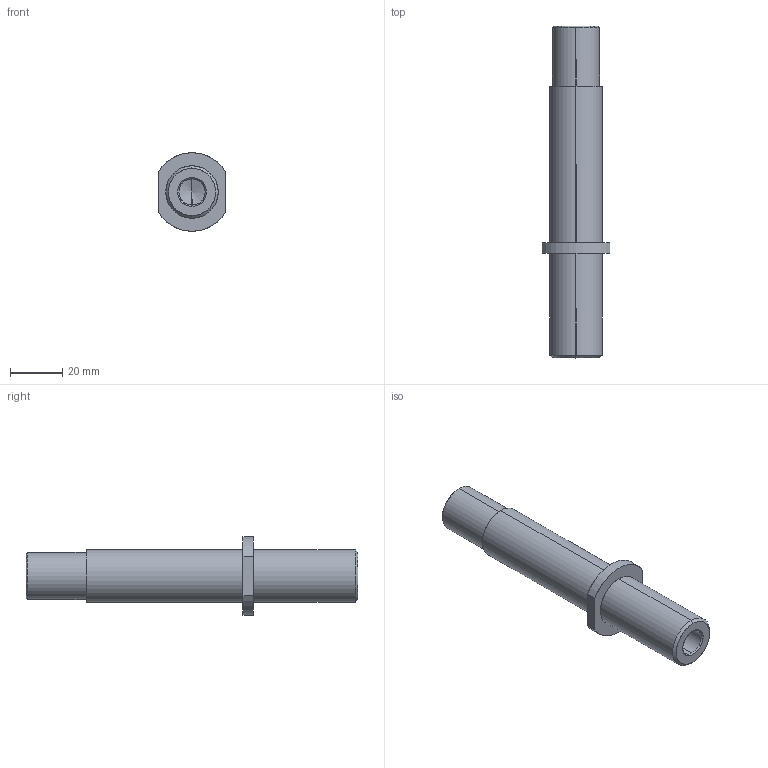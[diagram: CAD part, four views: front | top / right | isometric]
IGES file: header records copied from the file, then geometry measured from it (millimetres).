
Start section: SolidWorks IGES file using analytic representation for surfaces
Global section: file name: C:\Documents and Settings\Pc\Escritorio\Modelos 3D\Capítulo 6 (Fatiga)\PRACTICAS\P-15\p-15.IGS; native system: SolidWorks 2010; preprocessor: SolidWorks 2010; author: Pc; date: 100623.114409; units: millimetre
Bounding box: 26 x 127 x 30 mm (x, y, z)
Surface area: 10295.8 mm2 (no closed solid volume)
Topology: 0 solids, 0 shells, 26 faces, 376 edges, 374 vertices
Faces by surface type: revolution 19, bspline 7
